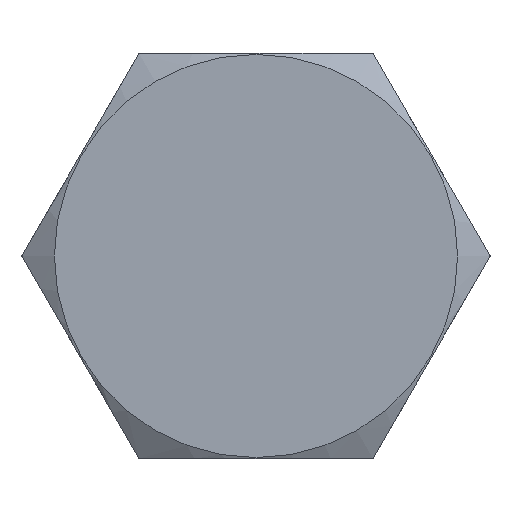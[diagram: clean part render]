
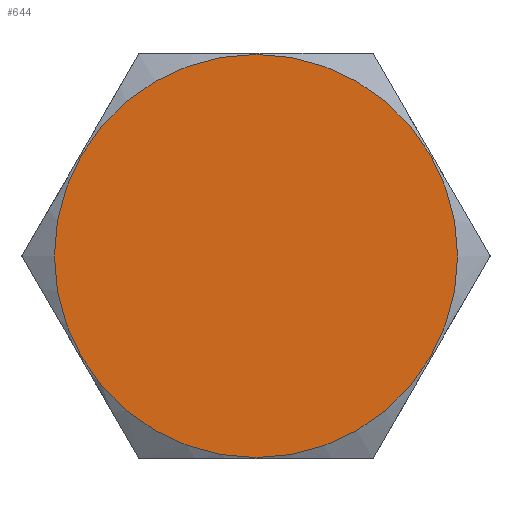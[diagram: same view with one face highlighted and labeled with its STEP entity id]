
A CAD part, front view. The second image highlights one B-rep face of the part: STEP entity #644.
In plain terms, the highlighted planar face has unit normal (0, -1, 0).
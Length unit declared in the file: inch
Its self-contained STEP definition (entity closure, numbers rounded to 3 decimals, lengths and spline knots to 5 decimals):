
#41=PLANE('',#738);
#145=FACE_OUTER_BOUND('',#185,.T.);
#185=EDGE_LOOP('',(#599));
#229=CIRCLE('',#735,0.373);
#308=VERTEX_POINT('',#1267);
#403=EDGE_CURVE('',#308,#308,#229,.T.);
#599=ORIENTED_EDGE('',*,*,#403,.F.);
#644=ADVANCED_FACE('',(#145),#41,.T.);
#735=AXIS2_PLACEMENT_3D('',#1268,#918,#919);
#738=AXIS2_PLACEMENT_3D('',#1272,#925,#926);
#918=DIRECTION('center_axis',(0.,1.,0.));
#919=DIRECTION('ref_axis',(0.,0.,1.));
#925=DIRECTION('center_axis',(0.,-1.,0.));
#926=DIRECTION('ref_axis',(0.,0.,-1.));
#1267=CARTESIAN_POINT('',(0.,0.,-0.373));
#1268=CARTESIAN_POINT('Origin',(0.,0.,0.));
#1272=CARTESIAN_POINT('Origin',(0.,0.,0.));
